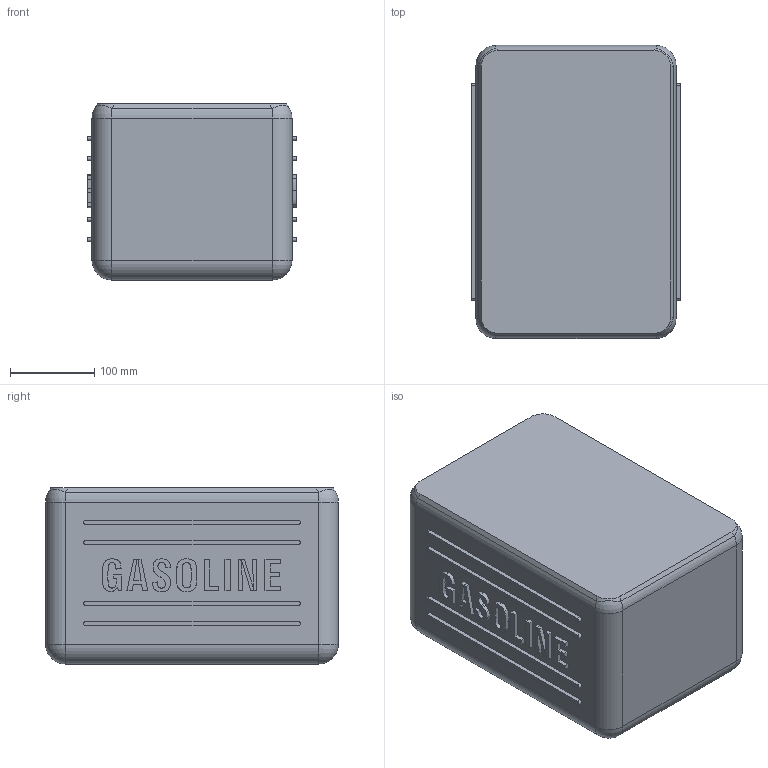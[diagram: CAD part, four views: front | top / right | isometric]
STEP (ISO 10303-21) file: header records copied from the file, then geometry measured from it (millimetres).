
FILE_DESCRIPTION((''),'2;1');
FILE_NAME('C:\My Documents\B2 Design\Skill Builders\Measured Volume\Models\GasCan_net.stp','2010-03-30T14:38:03',('boganb'),(''),'Autodesk Inventor 2011','Autodesk Inventor 2011','');
FILE_SCHEMA(('AUTOMOTIVE_DESIGN { 1 0 10303 214 1 1 1 1 }'));
Length unit declared in the file: inch
Products named in the file (1): GasCan_net
Bounding box: 247 x 347 x 208.5 mm (x, y, z)
Volume: 16963162.6 mm3; surface area: 415548.9 mm2
Topology: 1 solids, 1 shells, 306 faces, 800 edges, 520 vertices
Faces by surface type: plane 174, bspline 92, cylinder 32, sphere 8
Entity records: 12477 total; most frequent: CARTESIAN_POINT 5296, ORIENTED_EDGE 1592, DIRECTION 1066, EDGE_CURVE 796, VERTEX_POINT 520, VECTOR 508, LINE 508, EDGE_LOOP 334
